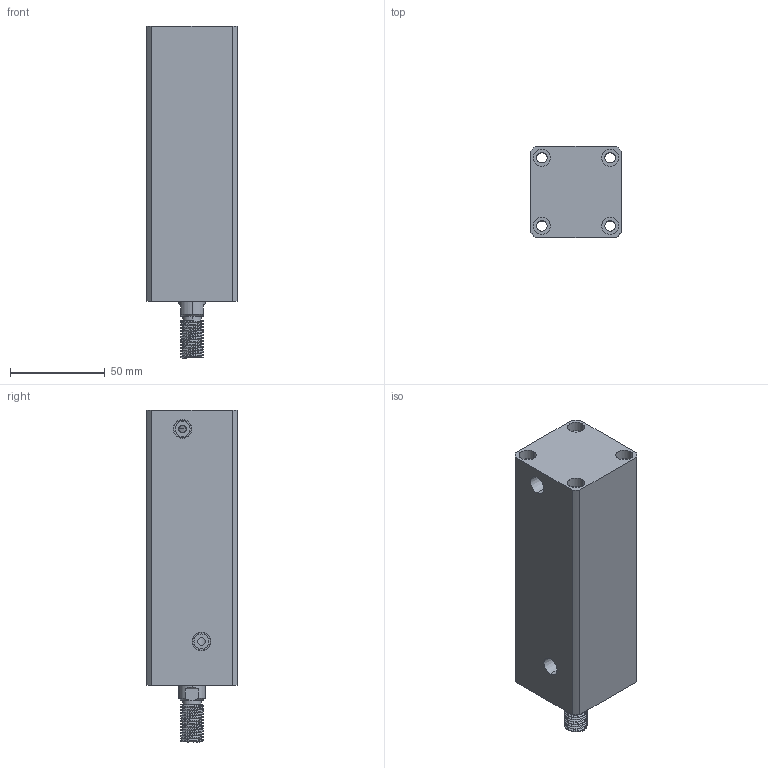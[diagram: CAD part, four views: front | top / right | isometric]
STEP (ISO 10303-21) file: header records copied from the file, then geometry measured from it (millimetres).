
FILE_DESCRIPTION (( 'STEP AP214' ), '1' );
FILE_NAME ('chtb-sd25x100w_asm.STEP', '2018-05-22T09:49:27', ( 'Windows' ), ( 'Microsoft' ), 'SwSTEP 2.0', 'SolidWorks 2015', '' );
FILE_SCHEMA (( 'AUTOMOTIVE_DESIGN' ));
Length unit declared in the file: millimetre
Products named in the file (4): CHTB-SD25X100WHSG; CHTB-SD25X100NBT; CHTB-25QG; chtb-sd25x100w_asm
Assembly tree (3 placements, depth 2):
  chtb-sd25x100w_asm
    CHTB-25QG
    CHTB-SD25X100NBT
    CHTB-SD25X100WHSG
Bounding box: 48 x 48 x 175 mm (x, y, z)
Volume: 283387.8 mm3; surface area: 68158.6 mm2
Topology: 3 solids, 3 shells, 178 faces, 474 edges, 323 vertices
Faces by surface type: cylinder 113, plane 39, cone 14, bspline 12
Entity records: 10610 total; most frequent: CARTESIAN_POINT 6273, ORIENTED_EDGE 940, DIRECTION 778, EDGE_CURVE 470, VERTEX_POINT 323, AXIS2_PLACEMENT_3D 317, EDGE_LOOP 217, FACE_OUTER_BOUND 178
